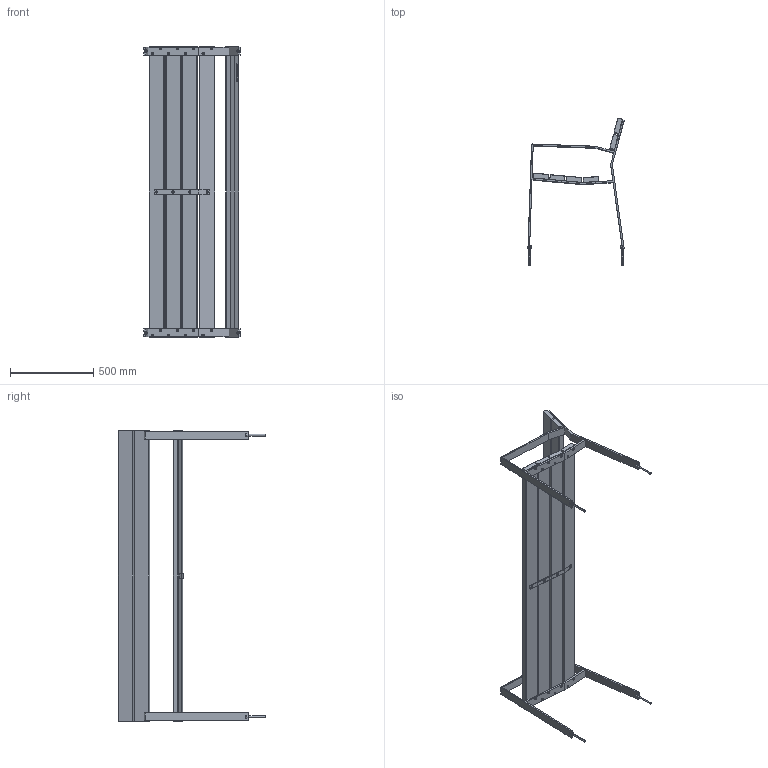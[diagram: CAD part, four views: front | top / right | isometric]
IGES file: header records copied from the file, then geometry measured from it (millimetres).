
Start section: SolidWorks IGES file using analytic representation for surfaces
Global section: file name: C:\SANTACOLE_PDM\Proyectos Catálogo\PROD-P13-073 -- BANCO HARPO\6_Técnico comercial\3D WEB\Banco Harpo 175cm  Madera 9x3cm - Bench Harpo 175 cm Wood 9x3 cm.IGS; native system: SolidWorks 2013; preprocessor: SolidWorks 2013; author: jordi.munoz; date: 150326.174556; units: millimetre
Bounding box: 578.04 x 886.37 x 1750 mm (x, y, z)
Volume: 30691410.7 mm3; surface area: 3158261.9 mm2
Topology: 47 solids, 47 shells, 2411 faces, 5892 edges, 3660 vertices
Faces by surface type: plane 1512, revolution 627, bspline 272
